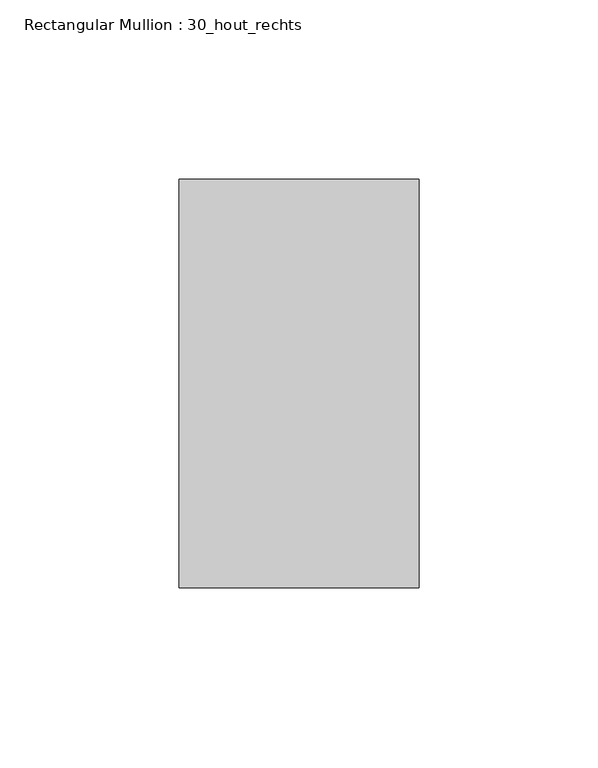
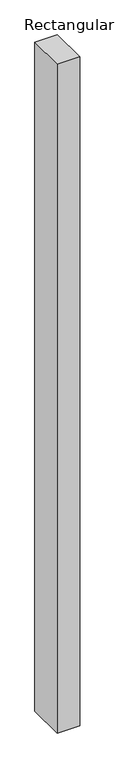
"""IFC4 building model written with IfcOpenShell, lengths in millimetres: member geometry, Rectangular Mullion : 30_hout_rechts."""

import ifcopenshell
import ifcopenshell.guid

model = None  # the IFC model being written
_history = None  # IfcOwnerHistory: only IFC2X3 demands one
_inside = {}  # id of a spatial element -> (the spatial element, [elements in it])
_under = {}  # id of a project, library or spatial element -> (it, [spatial elements below it])
_declared = {}  # id of a project -> (the project, [libraries it declares])
_typed = {}  # id of a type object -> (the type object, [elements of that type])
_made_of = {}  # id of a material, layer set ... -> (it, [elements and type objects made of it])


def new_model(schema):
    """Start an empty IFC model of exactly this schema.

    Asked for "IFC4X3", IfcOpenShell would pick the latest addendum, in which some entities
    have other attributes; the version numbers below select the first issue.
    IFC2X3 requires an IfcOwnerHistory on every rooted entity: one is made here for all.
    """
    global model, _history
    if schema == "IFC4X3":
        model = ifcopenshell.file(schema_version=(4, 3, 0, 0))
    else:
        model = ifcopenshell.file(schema=schema)
    _inside.clear()
    _under.clear()
    _declared.clear()
    _typed.clear()
    _made_of.clear()
    _history = None
    if model.schema == "IFC2X3":
        org = make("IfcOrganization", Name="unknown")
        user = make(
            "IfcPersonAndOrganization",
            ThePerson=make("IfcPerson", FamilyName="unknown"),
            TheOrganization=org,
        )
        app = make(
            "IfcApplication",
            ApplicationDeveloper=org,
            Version="unknown",
            ApplicationFullName="unknown",
            ApplicationIdentifier="unknown",
        )
        _history = make(
            "IfcOwnerHistory",
            OwningUser=user,
            OwningApplication=app,
            ChangeAction="ADDED",
            CreationDate=0,
        )
    return model


def make(cls, **values):
    """One entity of the class cls with the attributes given. An attribute that is None is left unset."""
    return model.create_entity(
        cls, **{name: value for name, value in values.items() if value is not None}
    )


def rooted(cls, **values):
    """An entity with a GlobalId (a new one), such as an element, a storey or a relation."""
    return make(cls, GlobalId=ifcopenshell.guid.new(), OwnerHistory=_history, **values)


def si_unit(unit_type, name, prefix=None):
    """IfcSIUnit, for example si_unit("LENGTHUNIT", "METRE", prefix="MILLI")."""
    return make("IfcSIUnit", UnitType=unit_type, Prefix=prefix, Name=name)


def assignment(units):
    """IfcUnitAssignment: the units of a project."""
    return None if units is None else make("IfcUnitAssignment", Units=units)


def point(xyz):
    """IfcCartesianPoint."""
    return None if xyz is None else make("IfcCartesianPoint", Coordinates=xyz)


def direction(xyz):
    """IfcDirection."""
    return None if xyz is None else make("IfcDirection", DirectionRatios=xyz)


def frame(location, z_axis=None, x_axis=None):
    """IfcAxis2Placement3D, a coordinate frame: its origin and axes. An axis left out is left unset."""
    return make(
        "IfcAxis2Placement3D",
        Location=point(location),
        Axis=direction(z_axis),
        RefDirection=direction(x_axis),
    )


def origin():
    """The frame at (0, 0, 0) with its axes left unset."""
    return frame((0.0, 0.0, 0.0))


def place(relative_to, where):
    """IfcLocalPlacement: puts the frame where relative to a parent placement (None: the world)."""
    return make(
        "IfcLocalPlacement", PlacementRelTo=relative_to, RelativePlacement=where
    )


def context(
    kind, dimensions, precision=None, world=None, true_north=None, identifier=None
):
    """IfcGeometricRepresentationContext, for example the 3D "Model" context."""
    return make(
        "IfcGeometricRepresentationContext",
        ContextIdentifier=identifier,
        ContextType=kind,
        CoordinateSpaceDimension=dimensions,
        Precision=precision,
        WorldCoordinateSystem=world,
        TrueNorth=true_north,
    )


def project(units=None, contexts=None):
    """IfcProject with its units and contexts."""
    return rooted(
        "IfcProject",
        Name="project",
        RepresentationContexts=contexts,
        UnitsInContext=assignment(units),
    )


def spatial(cls, under=None, at=None, **own):
    """A site, building, storey or space (cls), placed at a placement, below another one or the project."""
    s = rooted(cls, ObjectPlacement=at, **own)
    if under is not None:
        _under.setdefault(under.id(), (under, []))[1].append(s)
    return s


def polyline(points):
    """IfcPolyline through the points."""
    return make("IfcPolyline", Points=[point(p) for p in points])


def outline(outer, holes=None, kind="AREA"):
    """IfcArbitraryClosedProfileDef: a profile drawn as a closed curve; with holes, ...WithVoids."""
    if holes is None:
        return make("IfcArbitraryClosedProfileDef", ProfileType=kind, OuterCurve=outer)
    return make(
        "IfcArbitraryProfileDefWithVoids",
        ProfileType=kind,
        OuterCurve=outer,
        InnerCurves=holes,
    )


def extrude(swept, where, along, depth):
    """IfcExtrudedAreaSolid: the profile swept, set in the frame where, extruded along a direction by depth."""
    return make(
        "IfcExtrudedAreaSolid",
        SweptArea=swept,
        Position=where,
        ExtrudedDirection=direction(along),
        Depth=depth,
    )


def shape(context_of_items, identifier, shape_type, items):
    """IfcShapeRepresentation: the items that make up one representation, for example the "Body"."""
    return make(
        "IfcShapeRepresentation",
        ContextOfItems=context_of_items,
        RepresentationIdentifier=identifier,
        RepresentationType=shape_type,
        Items=items,
    )


def source(mapping_origin, context_of_items, identifier, shape_type, items):
    """IfcRepresentationMap: a shape defined once, which mapped items show again and again."""
    return make(
        "IfcRepresentationMap",
        MappingOrigin=mapping_origin,
        MappedRepresentation=shape(context_of_items, identifier, shape_type, items),
    )


def transform(
    local_origin,
    x_axis=None,
    y_axis=None,
    z_axis=None,
    scale=None,
    scale2=None,
    scale3=None,
    uniform=True,
):
    """IfcCartesianTransformationOperator3D, or its non-uniform kind. x_axis, y_axis, z_axis: its Axis1, 2, 3."""
    if uniform:
        return make(
            "IfcCartesianTransformationOperator3D",
            Axis1=direction(x_axis),
            Axis2=direction(y_axis),
            LocalOrigin=point(local_origin),
            Scale=scale,
            Axis3=direction(z_axis),
        )
    return make(
        "IfcCartesianTransformationOperator3DnonUniform",
        Axis1=direction(x_axis),
        Axis2=direction(y_axis),
        LocalOrigin=point(local_origin),
        Scale=scale,
        Axis3=direction(z_axis),
        Scale2=scale2,
        Scale3=scale3,
    )


def mapped(mapping_source, mapping_target):
    """IfcMappedItem: shows the shape of a source again, moved by a transform."""
    return make(
        "IfcMappedItem", MappingSource=mapping_source, MappingTarget=mapping_target
    )


def made_of(thing, what):
    """Note that an element or type object is made of a material, layer set ...; save() writes the relation."""
    if what is not None:
        _made_of.setdefault(what.id(), (what, []))[1].append(thing)
    return thing


def element(
    cls,
    number,
    at=None,
    inside=None,
    cuts=None,
    type_object=None,
    material=None,
    context=None,
    identifier="Body",
    shape_type=None,
    held_by="IfcProductDefinitionShape",
    body=None,
    shapes=None,
    **own,
):
    """One element of the class cls, such as IfcWall. Its Tag is "e" and its number.

    at: its placement. inside: the storey or other place that contains it. cuts: it is an
    opening in that element (IfcRelVoidsElement). A single representation is given by context,
    identifier, shape_type and body (its items); several are given by shapes. held_by: the class
    of the entity that holds the representations. save() writes the other relations.
    """
    e = rooted(cls, Tag="e%d" % number, ObjectPlacement=at, **own)
    if body is not None:
        shapes = [shape(context, identifier, shape_type, body)]
    if shapes is not None:
        e.Representation = make(held_by, Representations=shapes)
    if inside is not None:
        _inside.setdefault(inside.id(), (inside, []))[1].append(e)
    if cuts is not None:
        rooted(
            "IfcRelVoidsElement", RelatingBuildingElement=cuts, RelatedOpeningElement=e
        )
    if type_object is not None:
        _typed.setdefault(type_object.id(), (type_object, []))[1].append(e)
    return made_of(e, material)


def aggregate(whole, parts):
    """IfcRelAggregates: a whole, such as a stair, and the parts it consists of."""
    return rooted("IfcRelAggregates", RelatingObject=whole, RelatedObjects=parts)


def save(model, path):
    """Write the relations noted so far, then the file.

    IfcRelAggregates (storeys below a building ...), IfcRelContainedInSpatialStructure (elements
    in a storey), IfcRelDefinesByType, IfcRelAssociatesMaterial and IfcRelDeclares: one each for
    every whole, place, type object, material and project.
    """
    for whole, parts in _under.values():
        aggregate(whole, parts)
    for where, things in _inside.values():
        rooted(
            "IfcRelContainedInSpatialStructure",
            RelatedElements=things,
            RelatingStructure=where,
        )
    for kind, things in _typed.values():
        rooted("IfcRelDefinesByType", RelatedObjects=things, RelatingType=kind)
    for what, things in _made_of.values():
        rooted("IfcRelAssociatesMaterial", RelatedObjects=things, RelatingMaterial=what)
    for by, libraries in _declared.values():
        rooted("IfcRelDeclares", RelatingContext=by, RelatedDefinitions=libraries)
    model.write(path)


def rectangular_mullion_30_hout_rechts_a9cd09ce(model_context):
    return source(origin(), model_context, "Body", "SweptSolid", [
        extrude(outline(polyline([(67.0, 57.0), (67.0, -57.0), (0.0, -57.0), (0.0, 57.0), (67.0, 57.0)])), frame((0.0, 0.0, -2099.5), z_axis=(0.0, 0.0, 1.0), x_axis=(1.0, 0.0, 0.0)), (0.0, 0.0, 1.0), 2099.5),
    ])


if __name__ == "__main__":
    model = new_model("IFC4")
    model_context = context("Model", 3, world=origin())
    ifc_project = project(units=[si_unit("LENGTHUNIT", "METRE", prefix="MILLI")], contexts=[model_context])
    site = spatial("IfcSite", under=ifc_project)
    building = spatial("IfcBuilding", under=site)
    placement = place(None, origin())
    rectangular_mullion_30_hout_rechts_shape = rectangular_mullion_30_hout_rechts_a9cd09ce(model_context)
    element("IfcMember", 1, ObjectType="Rectangular Mullion : 30_hout_rechts", at=placement, inside=building, context=model_context, shape_type="MappedRepresentation", body=[
        mapped(rectangular_mullion_30_hout_rechts_shape, transform((0.0, 0.0, 0.0), x_axis=(1.0, 0.0, 0.0), y_axis=(0.0, 1.0, 0.0), z_axis=(0.0, 0.0, 1.0))),
    ])
    save(model, "model.ifc")
